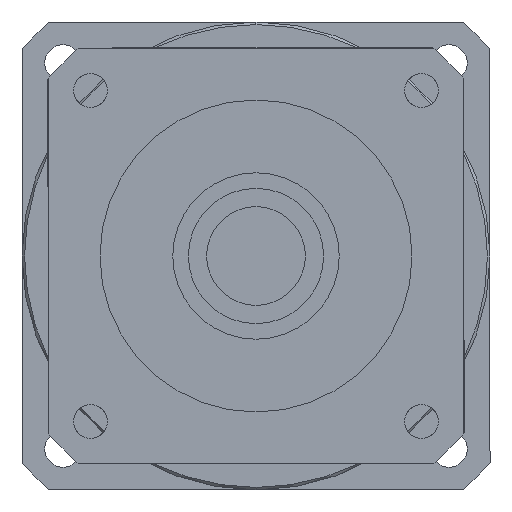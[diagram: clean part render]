
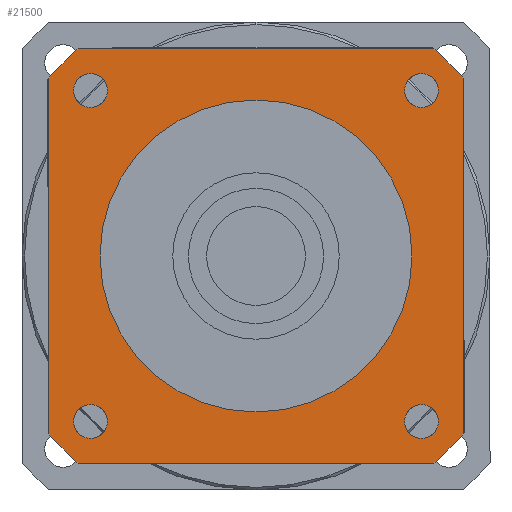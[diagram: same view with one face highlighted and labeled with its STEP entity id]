
A CAD part, left-side view. The second image highlights one B-rep face of the part: STEP entity #21500.
In plain terms, the highlighted planar face has unit normal (-1, 0, 0) as drawn and (0, 0, -1) by its records, which use the part's own axes.
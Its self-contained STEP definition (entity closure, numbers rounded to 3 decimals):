
#16010=CARTESIAN_POINT('',(34.004,40.,-117.));
#16020=VERTEX_POINT('',#16010);
#16050=CARTESIAN_POINT('',(0.,0.,
-117.));
#16060=DIRECTION('',(0.,0.,1.));
#16070=DIRECTION('',(0.,-1.,0.));
#16080=AXIS2_PLACEMENT_3D('',#16050,#16060,#16070);
#16090=CIRCLE('',#16080,52.5);
#16100=CARTESIAN_POINT('',(40.,34.004,-117.));
#16110=VERTEX_POINT('',#16100);
#16120=EDGE_CURVE('',#16110,#16020,#16090,.T.);
#16430=CARTESIAN_POINT('',(-40.,34.004,-117.));
#16440=VERTEX_POINT('',#16430);
#16690=CARTESIAN_POINT('',(-40.,-34.004,-117.));
#16700=VERTEX_POINT('',#16690);
#16730=CARTESIAN_POINT('',(-40.,40.,-117.));
#16740=DIRECTION('',(0.,-1.,0.));
#16750=VECTOR('',#16740,1000.);
#16760=LINE('',#16730,#16750);
#16770=EDGE_CURVE('',#16440,#16700,#16760,.T.);
#19040=CARTESIAN_POINT('',(-34.004,-40.,-117.));
#19050=VERTEX_POINT('',#19040);
#19080=CARTESIAN_POINT('',(0.,0.,
-117.));
#19090=DIRECTION('',(0.,0.,1.));
#19100=DIRECTION('',(0.,-1.,0.));
#19110=AXIS2_PLACEMENT_3D('',#19080,#19090,#19100);
#19120=CIRCLE('',#19110,52.5);
#19130=EDGE_CURVE('',#16700,#19050,#19120,.T.);
#19620=CARTESIAN_POINT('',(34.004,-40.,-117.));
#19630=VERTEX_POINT('',#19620);
#19710=CARTESIAN_POINT('',(40.,-34.004,-117.));
#19720=VERTEX_POINT('',#19710);
#19750=CARTESIAN_POINT('',(0.,0.,
-117.));
#19760=DIRECTION('',(0.,0.,1.));
#19770=DIRECTION('',(0.,-1.,0.));
#19780=AXIS2_PLACEMENT_3D('',#19750,#19760,#19770);
#19790=CIRCLE('',#19780,52.5);
#19800=EDGE_CURVE('',#19630,#19720,#19790,.T.);
#19940=CARTESIAN_POINT('',(28.57,31.82,-117.));
#19950=VERTEX_POINT('',#19940);
#20120=CARTESIAN_POINT('',(35.07,31.82,-117.));
#20130=VERTEX_POINT('',#20120);
#20160=CARTESIAN_POINT('',(31.82,31.82,-117.));
#20170=DIRECTION('',(0.,0.,-1.));
#20180=DIRECTION('',(0.,1.,0.));
#20190=AXIS2_PLACEMENT_3D('',#20160,#20170,#20180);
#20200=CIRCLE('',#20190,3.25);
#20210=CARTESIAN_POINT('',(31.82,35.07,-117.));
#20220=VERTEX_POINT('',#20210);
#20230=EDGE_CURVE('',#20220,#20130,#20200,.T.);
#20250=EDGE_CURVE('',#19950,#20220,#20200,.T.);
#20300=CARTESIAN_POINT('',(-40.,40.,-117.));
#20310=DIRECTION('',(0.,0.,1.));
#20320=DIRECTION('',(-1.,0.,0.));
#20330=AXIS2_PLACEMENT_3D('',#20300,#20310,#20320);
#20340=PLANE('',#20330);
#20350=CARTESIAN_POINT('',(31.82,-31.82,-117.));
#20360=DIRECTION('',(0.,0.,-1.));
#20370=DIRECTION('',(1.,0.,0.));
#20380=AXIS2_PLACEMENT_3D('',#20350,#20360,#20370);
#20390=CIRCLE('',#20380,3.25);
#20400=CARTESIAN_POINT('',(35.07,-31.82,-117.));
#20410=VERTEX_POINT('',#20400);
#20420=CARTESIAN_POINT('',(31.82,-35.07,-117.));
#20430=VERTEX_POINT('',#20420);
#20440=EDGE_CURVE('',#20410,#20430,#20390,.T.);
#20450=ORIENTED_EDGE('',*,*,#20440,.F.);
#20460=CARTESIAN_POINT('',(31.82,-28.57,-117.));
#20470=VERTEX_POINT('',#20460);
#20480=EDGE_CURVE('',#20430,#20470,#20390,.T.);
#20490=ORIENTED_EDGE('',*,*,#20480,.F.);
#20500=EDGE_CURVE('',#20470,#20410,#20390,.T.);
#20510=ORIENTED_EDGE('',*,*,#20500,.F.);
#20520=EDGE_LOOP('',(#20510,#20490,#20450));
#20530=FACE_BOUND('',#20520,.T.);
#20540=ORIENTED_EDGE('',*,*,#20230,.F.);
#20550=EDGE_CURVE('',#20130,#19950,#20200,.T.);
#20560=ORIENTED_EDGE('',*,*,#20550,.F.);
#20570=ORIENTED_EDGE('',*,*,#20250,.F.);
#20580=EDGE_LOOP('',(#20570,#20560,#20540));
#20590=FACE_BOUND('',#20580,.T.);
#20600=CARTESIAN_POINT('',(-31.82,31.82,-117.));
#20610=DIRECTION('',(0.,0.,-1.));
#20620=DIRECTION('',(-1.,0.,0.));
#20630=AXIS2_PLACEMENT_3D('',#20600,#20610,#20620);
#20640=CIRCLE('',#20630,3.25);
#20650=CARTESIAN_POINT('',(-35.07,31.82,-117.));
#20660=VERTEX_POINT('',#20650);
#20670=CARTESIAN_POINT('',(-31.82,35.07,-117.));
#20680=VERTEX_POINT('',#20670);
#20690=EDGE_CURVE('',#20660,#20680,#20640,.T.);
#20700=ORIENTED_EDGE('',*,*,#20690,.F.);
#20710=CARTESIAN_POINT('',(-31.82,28.57,-117.));
#20720=VERTEX_POINT('',#20710);
#20730=EDGE_CURVE('',#20680,#20720,#20640,.T.);
#20740=ORIENTED_EDGE('',*,*,#20730,.F.);
#20750=EDGE_CURVE('',#20720,#20660,#20640,.T.);
#20760=ORIENTED_EDGE('',*,*,#20750,.F.);
#20770=EDGE_LOOP('',(#20760,#20740,#20700));
#20780=FACE_BOUND('',#20770,.T.);
#20790=CARTESIAN_POINT('',(-31.82,-31.82,-117.));
#20800=DIRECTION('',(0.,0.,-1.));
#20810=DIRECTION('',(0.,-1.,0.));
#20820=AXIS2_PLACEMENT_3D('',#20790,#20800,#20810);
#20830=CIRCLE('',#20820,3.25);
#20840=CARTESIAN_POINT('',(-31.82,-35.07,-117.));
#20850=VERTEX_POINT('',#20840);
#20860=CARTESIAN_POINT('',(-35.07,-31.82,-117.));
#20870=VERTEX_POINT('',#20860);
#20880=EDGE_CURVE('',#20850,#20870,#20830,.T.);
#20890=ORIENTED_EDGE('',*,*,#20880,.F.);
#20900=CARTESIAN_POINT('',(-28.57,-31.82,-117.));
#20910=VERTEX_POINT('',#20900);
#20920=EDGE_CURVE('',#20870,#20910,#20830,.T.);
#20930=ORIENTED_EDGE('',*,*,#20920,.F.);
#20940=EDGE_CURVE('',#20910,#20850,#20830,.T.);
#20950=ORIENTED_EDGE('',*,*,#20940,.F.);
#20960=EDGE_LOOP('',(#20950,#20930,#20890));
#20970=FACE_BOUND('',#20960,.T.);
#20980=ORIENTED_EDGE('',*,*,#19130,.F.);
#20990=CARTESIAN_POINT('',(-40.,-40.,-117.));
#21000=DIRECTION('',(1.,0.,0.));
#21010=VECTOR('',#21000,1000.);
#21020=LINE('',#20990,#21010);
#21030=EDGE_CURVE('',#19050,#19630,#21020,.T.);
#21040=ORIENTED_EDGE('',*,*,#21030,.F.);
#21050=ORIENTED_EDGE('',*,*,#19800,.F.);
#21060=CARTESIAN_POINT('',(40.,-40.,-117.));
#21070=DIRECTION('',(0.,1.,0.));
#21080=VECTOR('',#21070,1000.);
#21090=LINE('',#21060,#21080);
#21100=EDGE_CURVE('',#19720,#16110,#21090,.T.);
#21110=ORIENTED_EDGE('',*,*,#21100,.F.);
#21120=ORIENTED_EDGE('',*,*,#16120,.F.);
#21130=CARTESIAN_POINT('',(40.,40.,-117.));
#21140=DIRECTION('',(-1.,0.,0.));
#21150=VECTOR('',#21140,1000.);
#21160=LINE('',#21130,#21150);
#21170=CARTESIAN_POINT('',(-34.004,40.,-117.));
#21180=VERTEX_POINT('',#21170);
#21190=EDGE_CURVE('',#16020,#21180,#21160,.T.);
#21200=ORIENTED_EDGE('',*,*,#21190,.F.);
#21210=CARTESIAN_POINT('',(0.,0.,
-117.));
#21220=DIRECTION('',(0.,0.,1.));
#21230=DIRECTION('',(0.,-1.,0.));
#21240=AXIS2_PLACEMENT_3D('',#21210,#21220,#21230);
#21250=CIRCLE('',#21240,52.5);
#21260=EDGE_CURVE('',#21180,#16440,#21250,.T.);
#21270=ORIENTED_EDGE('',*,*,#21260,.F.);
#21280=ORIENTED_EDGE('',*,*,#16770,.F.);
#21290=EDGE_LOOP('',(#21280,#21270,#21200,#21120,#21110,#21050,#21040,
#20980));
#21300=FACE_OUTER_BOUND('',#21290,.T.);
#21310=CARTESIAN_POINT('',(0.,0.,
-117.));
#21320=DIRECTION('',(0.,0.,1.));
#21330=DIRECTION('',(0.,-1.,0.));
#21340=AXIS2_PLACEMENT_3D('',#21310,#21320,#21330);
#21350=CIRCLE('',#21340,30.);
#21360=CARTESIAN_POINT('',(30.,0.,-117.));
#21370=VERTEX_POINT('',#21360);
#21380=CARTESIAN_POINT('',(-30.,0.,-117.));
#21390=VERTEX_POINT('',#21380);
#21400=EDGE_CURVE('',#21370,#21390,#21350,.T.);
#21410=ORIENTED_EDGE('',*,*,#21400,.T.);
#21420=CARTESIAN_POINT('',(0.,-30.,-117.));
#21430=VERTEX_POINT('',#21420);
#21440=EDGE_CURVE('',#21430,#21370,#21350,.T.);
#21450=ORIENTED_EDGE('',*,*,#21440,.T.);
#21460=EDGE_CURVE('',#21390,#21430,#21350,.T.);
#21470=ORIENTED_EDGE('',*,*,#21460,.T.);
#21480=EDGE_LOOP('',(#21470,#21450,#21410));
#21490=FACE_BOUND('',#21480,.T.);
#21500=ADVANCED_FACE('',(#20530,#20590,#20780,#20970,#21300,#21490),
#20340,.F.);
